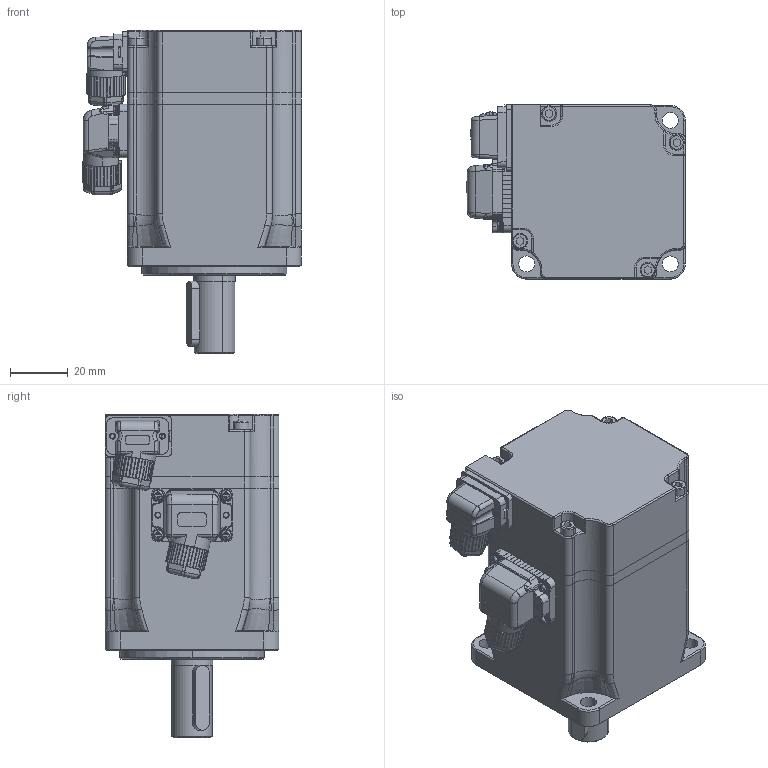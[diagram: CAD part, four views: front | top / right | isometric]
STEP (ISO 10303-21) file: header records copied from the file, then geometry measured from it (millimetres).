
FILE_DESCRIPTION (( 'STEP AP214' ), '1' );
FILE_NAME ('×°ÅäÌå1.STEP', '2023-11-03T10:31:30', ( 'muse' ), ( 'muse' ), 'SwSTEP 2.0', 'SolidWorks 2020', '' );
FILE_SCHEMA (( 'AUTOMOTIVE_DESIGN' ));
Length unit declared in the file: millimetre
Products named in the file (11): 60綴欶; 60す瑩.stp; JM30伺服电机编码器插头7P-小型斜口-散装(不含端子).stp; JM30伺服电机动力插头4+2P-小型斜口-散装(不含端子).stp; 蚾饜极1; 儂旯蹟佪.stp; JM30伺服电机编码器焊线式底座7P小型斜口不带线(1).stp; 伺服电机动力焊线底座4+2P小型斜口带线带刹车线(1).stp; 60-200W儂旯; 60粣扥1.stp; 60綴傷裔
Assembly tree (13 placements, depth 2):
  蚾饜极1
    60-200W儂旯
    60綴傷裔
    60綴欶
    60す瑩.stp
    60粣扥1.stp
    儂旯蹟佪.stp  x4
    JM30伺服电机编码器插头7P-小型斜口-散装(不含端子).stp
    JM30伺服电机编码器焊线式底座7P小型斜口不带线(1).stp
    JM30伺服电机动力插头4+2P-小型斜口-散装(不含端子).stp
    伺服电机动力焊线底座4+2P小型斜口带线带刹车线(1).stp
Bounding box: 75.47 x 60 x 111.5 mm (x, y, z)
Volume: 276430.2 mm3; surface area: 56647.7 mm2
Topology: 13 solids, 30 shells, 3634 faces, 9547 edges, 6057 vertices
Faces by surface type: plane 1969, cylinder 996, cone 311, torus 177, bspline 174, sphere 7
Entity records: 129667 total; most frequent: CARTESIAN_POINT 43324, ORIENTED_EDGE 18758, DIRECTION 16721, EDGE_CURVE 9379, VERTEX_POINT 5981, LINE 5721, VECTOR 5721, AXIS2_PLACEMENT_3D 5500
